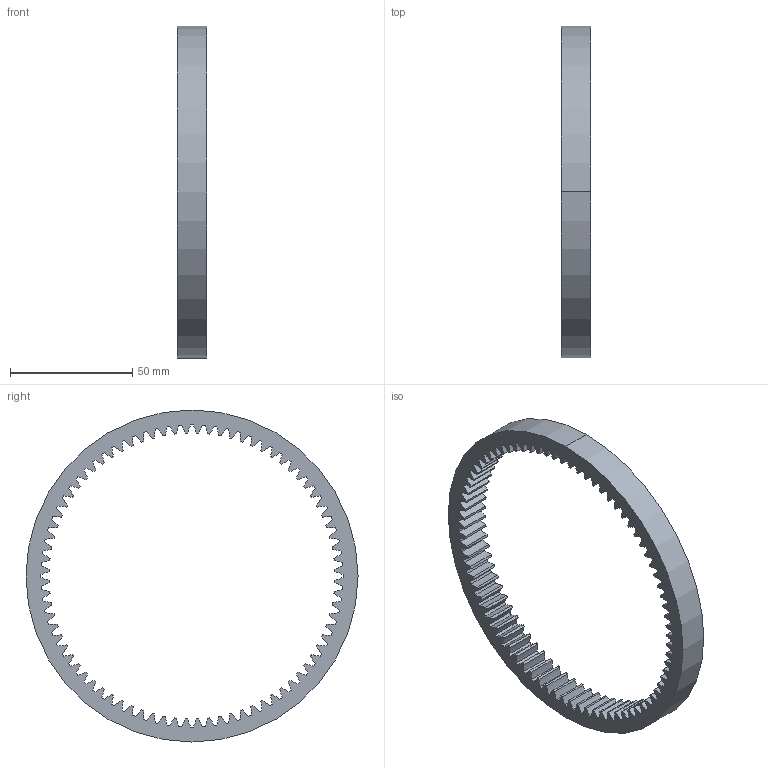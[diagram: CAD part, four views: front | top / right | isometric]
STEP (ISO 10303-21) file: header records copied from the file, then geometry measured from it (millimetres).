
FILE_DESCRIPTION (( 'STEP AP214' ), '1' );
FILE_NAME ('Internal Spur Gear.STEP', '2024-07-18T10:08:45', ( '' ), ( '' ), 'SwSTEP 2.0', 'SolidWorks 2023', '' );
FILE_SCHEMA (( 'AUTOMOTIVE_DESIGN' ));
Length unit declared in the file: millimetre
Products named in the file (1): Internal Spur Gear
Bounding box: 12 x 135.78 x 135.78 mm (x, y, z)
Volume: 36840 mm3; surface area: 20210.8 mm2
Topology: 1 solids, 1 shells, 329 faces, 981 edges, 654 vertices
Faces by surface type: cylinder 327, plane 2
Entity records: 11496 total; most frequent: DIRECTION 2295, CARTESIAN_POINT 1965, ORIENTED_EDGE 1962, AXIS2_PLACEMENT_3D 984, EDGE_CURVE 981, CIRCLE 654, VERTEX_POINT 654, EDGE_LOOP 331
